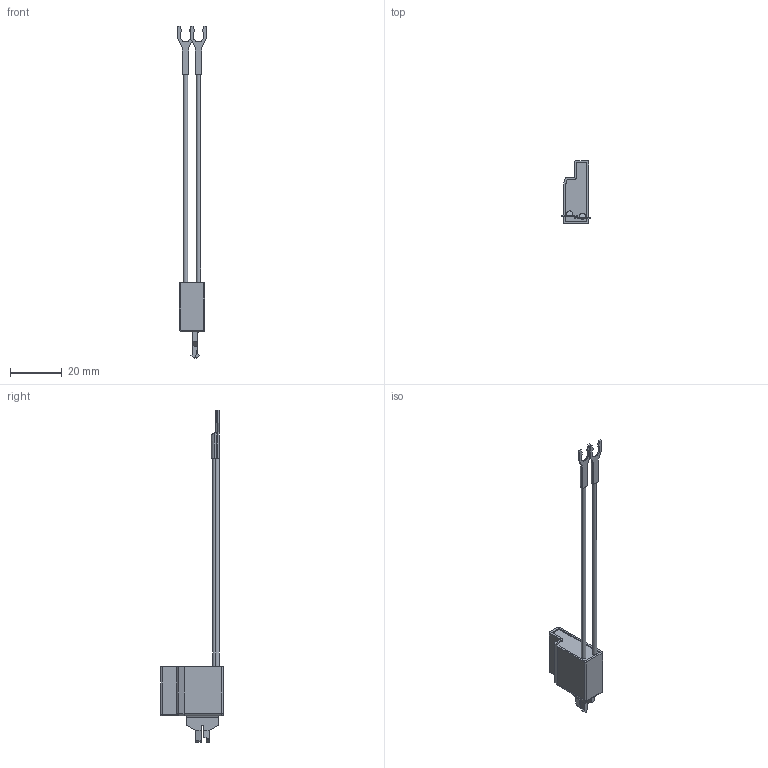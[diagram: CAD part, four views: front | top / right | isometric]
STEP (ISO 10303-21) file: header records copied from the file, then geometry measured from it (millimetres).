
FILE_DESCRIPTION (( 'STEP AP203' ), '1' );
FILE_NAME ('RC-K3.STEP', '2019-11-04T14:05:38', ( '' ), ( '' ), 'SwSTEP 2.0', 'SolidWorks 2019', '' );
FILE_SCHEMA (( 'CONFIG_CONTROL_DESIGN' ));
Length unit declared in the file: millimetre
Products named in the file (5): RC-K3; Draht^65420; Teil2^65420; Kabelschuh^65420; 65139
Assembly tree (6 placements, depth 2):
  RC-K3
    65139
    Teil2^65420
    Kabelschuh^65420  x2
    Draht^65420  x2
Bounding box: 11.2 x 24.25 x 128.66 mm (x, y, z)
Volume: 4464 mm3; surface area: 5491.4 mm2
Topology: 6 solids, 6 shells, 289 faces, 744 edges, 486 vertices
Faces by surface type: plane 164, bspline 74, cylinder 46, sphere 3, torus 2
Entity records: 12522 total; most frequent: CARTESIAN_POINT 6065, ORIENTED_EDGE 1342, DIRECTION 976, EDGE_CURVE 671, VECTOR 442, LINE 442, VERTEX_POINT 440, EDGE_LOOP 285
